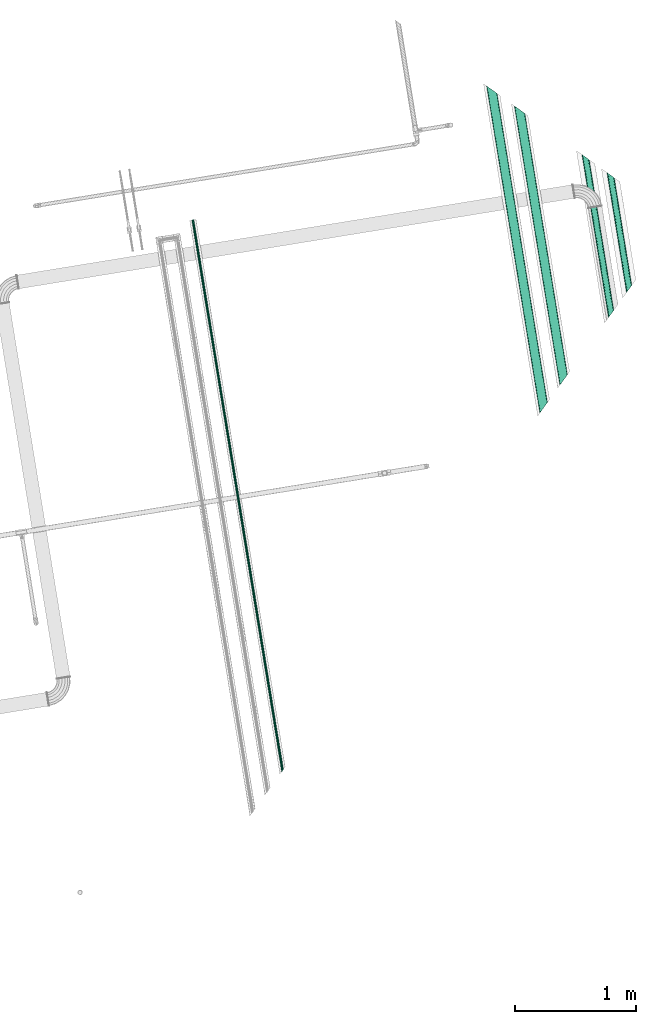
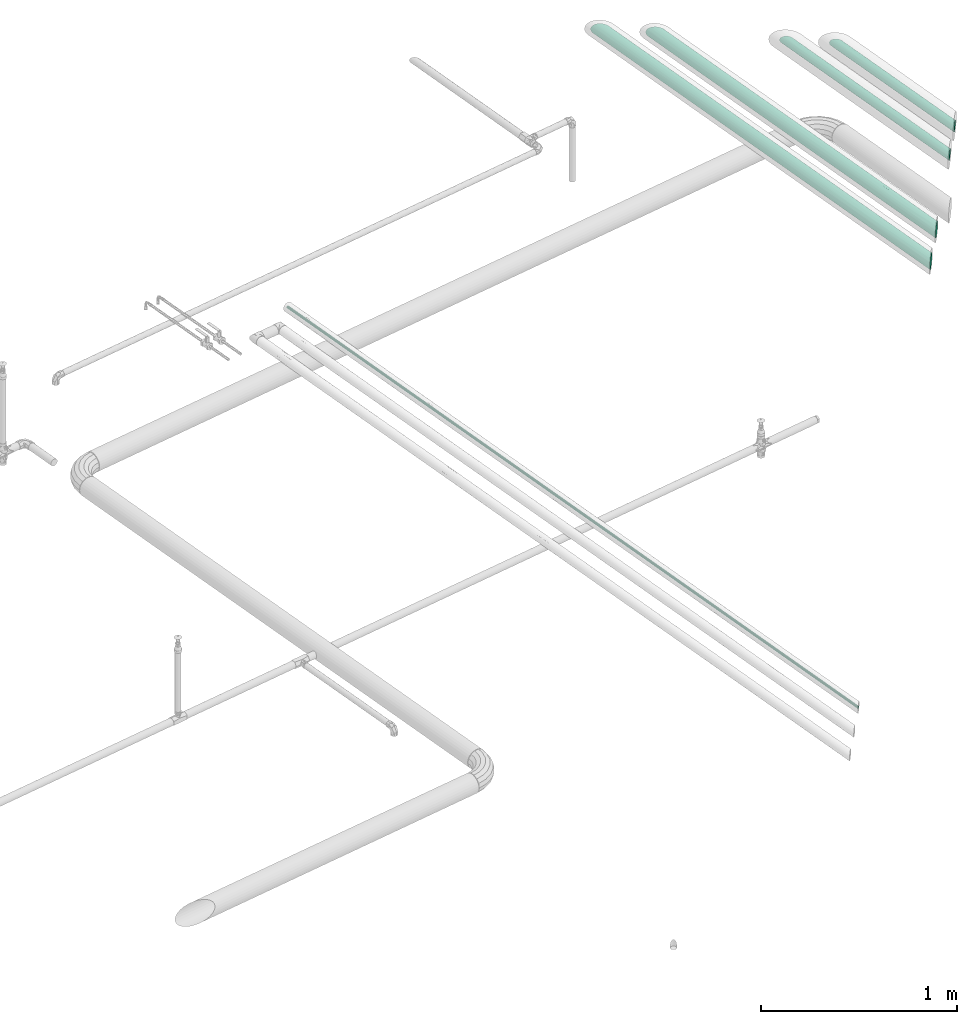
# One storey, part 43 of 46: 5 flow segments.
"""IFC2X3 building model written with IfcOpenShell, lengths in millimetres."""

from ifc_helpers import new_model, entity, si_unit, converted_unit, derived_unit, direction, frame, origin, origin_with_axes, place, context, subcontext, project, spatial, faceted_brep, material, type_object, element, save


model = new_model("IFC2X3")

# Units and contexts
model_context = context("Model", 3, precision=0.01, world=origin(), true_north=direction((6.12323399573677e-17, 1.0)))
plan_context = context("Plan", 3, precision=1e-05, world=origin_with_axes())
body_context = subcontext(model_context, "Body", "Model", "MODEL_VIEW")
ifc_project = project(units=[converted_unit("PLANEANGLEUNIT", "DEGREE", entity("IfcPositiveLengthMeasure", 0.0174532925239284), si_unit("PLANEANGLEUNIT", "RADIAN"), dimensions=[0, 0, 0, 0, 0, 0, 0]), si_unit("AREAUNIT", "SQUARE_METRE"), si_unit("LENGTHUNIT", "METRE", prefix="MILLI"), si_unit("MASSUNIT", "GRAM", prefix="KILO"), si_unit("POWERUNIT", "WATT"), si_unit("PRESSUREUNIT", "PASCAL", prefix="KILO"), si_unit("FORCEUNIT", "NEWTON", prefix="KILO"), si_unit("ELECTRICVOLTAGEUNIT", "VOLT"), si_unit("ELECTRICCURRENTUNIT", "AMPERE"), si_unit("THERMODYNAMICTEMPERATUREUNIT", "DEGREE_CELSIUS"), si_unit("TIMEUNIT", "SECOND"), si_unit("VOLUMEUNIT", "CUBIC_METRE"), derived_unit("LINEARVELOCITYUNIT", [(si_unit("LENGTHUNIT", "METRE"), 1), (si_unit("TIMEUNIT", "SECOND"), -1)]), derived_unit("VOLUMETRICFLOWRATEUNIT", [(si_unit("VOLUMEUNIT", "CUBIC_METRE"), 1), (si_unit("TIMEUNIT", "SECOND"), -1)]), derived_unit("THERMALTRANSMITTANCEUNIT", [(si_unit("POWERUNIT", "WATT"), 1), (si_unit("THERMODYNAMICTEMPERATUREUNIT", "KELVIN"), -1), (si_unit("AREAUNIT", "SQUARE_METRE"), -1)]), derived_unit("SOUNDPRESSUREUNIT", [(si_unit("PRESSUREUNIT", "PASCAL"), 1)])], contexts=[model_context, plan_context])

# Site, building, storey
site_placement = place(None, frame((-3.09682673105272e-06, 1.93776733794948e-05, 0.0), z_axis=(0.0, 0.0, 1.0), x_axis=(-0.160806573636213, 0.986985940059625, 0.0)))
site = spatial("IfcSite", under=ifc_project, at=site_placement, Name="Default", CompositionType="ELEMENT")
building_placement = place(site_placement, frame((0.0, 0.0, 0.0), z_axis=(0.0, 0.0, 1.0), x_axis=(1.0, -2.77555756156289e-17, 0.0)))
building = spatial("IfcBuilding", under=site, at=building_placement, Name="Bygning (endres i Project Information)", CompositionType="ELEMENT")
storey_placement = place(building_placement, frame((0.0, 0.0, 51360.0000000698), z_axis=(0.0, 0.0, 1.0), x_axis=(1.0, -2.77555756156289e-17, 0.0)))
storey = spatial("IfcBuildingStorey", under=building, at=storey_placement, Name="H01-Nivå D+0,36", CompositionType="ELEMENT", Elevation=51360.0000000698)

# Flow segments
ifc_material_1 = material(Name="3320.001")
pipe_segment_type_1 = type_object("IfcPipeSegmentType", Name="Pipe Types:Stålrør sveist og gjenget", PredefinedType="NOTDEFINED", material=ifc_material_1)
flow_segment_1_placement = place(storey_placement, frame((0.0, 0.0, 0.0), z_axis=(0.0, 0.0, 1.0), x_axis=(1.0, -2.77555756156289e-17, 0.0)))
element("IfcFlowSegment", 1, at=flow_segment_1_placement, inside=storey, type_object=pipe_segment_type_1, Name="Pipe Types:Stålrør sveist og gjenget", ObjectType="Pipe Types:Stålrør sveist og gjenget", context=body_context, shape_type="Brep", body=[
    faceted_brep([(1009109.29823757, -356563.343800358, 3653.39268696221), (1009109.87630256, -356562.76573537, 3660.0), (1006771.97433091, -356562.76573537, 3660.0), (1006772.5523959, -356563.343800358, 3653.39268696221), (1009109.29823757, -356563.343800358, 3666.60731303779), (1006772.5523959, -356563.343800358, 3666.60731303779), (1009107.58160682, -356565.060431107, 3673.01386621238), (1006774.26902665, -356565.060431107, 3673.01386621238), (1009104.77856927, -356567.863468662, 3679.02499964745), (1006777.0720642, -356567.863468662, 3679.02499964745), (1009100.97429378, -356571.667744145, 3684.45806809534), (1006780.87633969, -356571.667744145, 3684.45806809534), (1009096.28437136, -356576.35766657, 3689.14799052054), (1006785.56626211, -356576.35766657, 3689.14799052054), (1009090.85130291, -356581.790735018, 3692.95226600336), (1006790.99933056, -356581.790735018, 3692.95226600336), (1009084.84016948, -356587.801868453, 3695.75530355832), (1006797.01046399, -356587.801868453, 3695.75530355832), (1009078.4336163, -356594.208421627, 3697.47193430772), (1006803.41701717, -356594.208421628, 3697.47193430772), (1009071.82630326, -356600.815734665, 3698.0499992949), (1006810.02433021, -356600.815734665, 3698.0499992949), (1009065.21899023, -356607.423047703, 3697.47193430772), (1006816.63164324, -356607.423047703, 3697.47193430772), (1009058.81243705, -356613.829600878, 3695.75530355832), (1006823.03819642, -356613.829600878, 3695.75530355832), (1009052.80130362, -356619.840734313, 3692.95226600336), (1006829.04932985, -356619.840734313, 3692.95226600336), (1009047.36823517, -356625.273802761, 3689.14799052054), (1006834.4823983, -356625.273802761, 3689.14799052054), (1009042.67831274, -356629.963725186, 3684.45806809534), (1006839.17232073, -356629.963725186, 3684.45806809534), (1009038.87403726, -356633.768000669, 3679.02499964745), (1006842.97659621, -356633.768000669, 3679.02499964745), (1009036.0709997, -356636.571038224, 3673.01386621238), (1006845.77963376, -356636.571038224, 3673.01386621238), (1009034.35436896, -356638.287668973, 3666.60731303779), (1006847.49626451, -356638.287668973, 3666.60731303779), (1009033.77630397, -356638.86573396, 3660.0), (1006848.0743295, -356638.86573396, 3660.0), (1009034.35436896, -356638.287668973, 3653.39268696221), (1006847.49626451, -356638.287668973, 3653.39268696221), (1009036.0709997, -356636.571038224, 3646.98613378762), (1006845.77963376, -356636.571038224, 3646.98613378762), (1009038.87403726, -356633.768000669, 3640.97500035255), (1006842.97659621, -356633.768000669, 3640.97500035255), (1009042.67831274, -356629.963725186, 3635.54193190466), (1006839.17232073, -356629.963725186, 3635.54193190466), (1009047.36823517, -356625.273802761, 3630.85200947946), (1006834.4823983, -356625.273802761, 3630.85200947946), (1009052.80130362, -356619.840734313, 3627.04773399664), (1006829.04932985, -356619.840734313, 3627.04773399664), (1009058.81243705, -356613.829600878, 3624.24469644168), (1006823.03819642, -356613.829600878, 3624.24469644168), (1009065.21899023, -356607.423047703, 3622.52806569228), (1006816.63164324, -356607.423047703, 3622.52806569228), (1009071.82630326, -356600.815734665, 3621.9500007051), (1006810.02433021, -356600.815734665, 3621.9500007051), (1009078.4336163, -356594.208421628, 3622.52806569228), (1006803.41701717, -356594.208421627, 3622.52806569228), (1009084.84016948, -356587.801868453, 3624.24469644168), (1006797.01046399, -356587.801868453, 3624.24469644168), (1009090.85130291, -356581.790735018, 3627.04773399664), (1006790.99933056, -356581.790735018, 3627.04773399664), (1009096.28437136, -356576.35766657, 3630.85200947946), (1006785.56626211, -356576.35766657, 3630.85200947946), (1009100.97429378, -356571.667744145, 3635.54193190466), (1006780.87633969, -356571.667744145, 3635.54193190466), (1009104.77856927, -356567.863468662, 3640.97500035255), (1006777.0720642, -356567.863468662, 3640.97500035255), (1009107.58160682, -356565.060431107, 3646.98613378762), (1006774.26902665, -356565.060431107, 3646.98613378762)], [[[0, 1, 2, 3]], [[1, 4, 5, 2]], [[4, 6, 7, 5]], [[6, 8, 9, 7]], [[8, 10, 11, 9]], [[10, 12, 13, 11]], [[12, 14, 15, 13]], [[14, 16, 17, 15]], [[16, 18, 19, 17]], [[18, 20, 21, 19]], [[20, 22, 23, 21]], [[22, 24, 25, 23]], [[24, 26, 27, 25]], [[26, 28, 29, 27]], [[28, 30, 31, 29]], [[30, 32, 33, 31]], [[32, 34, 35, 33]], [[34, 36, 37, 35]], [[36, 38, 39, 37]], [[38, 40, 41, 39]], [[40, 42, 43, 41]], [[42, 44, 45, 43]], [[44, 46, 47, 45]], [[46, 48, 49, 47]], [[48, 50, 51, 49]], [[50, 52, 53, 51]], [[52, 54, 55, 53]], [[54, 56, 57, 55]], [[56, 58, 59, 57]], [[58, 60, 61, 59]], [[60, 62, 63, 61]], [[62, 64, 65, 63]], [[64, 66, 67, 65]], [[66, 68, 69, 67]], [[68, 70, 71, 69]], [[70, 0, 3, 71]], [[70, 68, 66, 64, 62, 60, 58, 56, 54, 52, 50, 48, 46, 44, 42, 40, 38, 36, 34, 32, 30, 28, 26, 24, 22, 20, 18, 16, 14, 12, 10, 8, 6, 4, 1, 0]], [[5, 7, 9, 11, 13, 15, 17, 19, 21, 23, 25, 27, 29, 31, 33, 35, 37, 39, 41, 43, 45, 47, 49, 51, 53, 55, 57, 59, 61, 63, 65, 67, 69, 71, 3, 2]]], orient=[[False], [False], [False], [False], [False], [False], [False], [False], [False], [False], [False], [False], [False], [False], [False], [False], [False], [False], [False], [False], [False], [False], [False], [False], [False], [False], [False], [False], [False], [False], [False], [False], [False], [False], [False], [False], [False], [False]]),
])
flow_segment_2_placement = place(storey_placement, frame((0.0, 0.0, 0.0), z_axis=(0.0, 0.0, 1.0), x_axis=(1.0, -2.77555756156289e-17, 0.0)))
element("IfcFlowSegment", 2, at=flow_segment_2_placement, inside=storey, type_object=pipe_segment_type_1, Name="Pipe Types:Stålrør sveist og gjenget", ObjectType="Pipe Types:Stålrør sveist og gjenget", context=body_context, shape_type="Brep", body=[
    faceted_brep([(1009309.29823757, -356363.343800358, 3653.39268696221), (1009309.87630256, -356362.76573537, 3660.0), (1006571.97433091, -356362.76573537, 3660.0), (1006572.5523959, -356363.343800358, 3653.39268696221), (1009309.29823757, -356363.343800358, 3666.60731303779), (1006572.5523959, -356363.343800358, 3666.60731303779), (1009307.58160682, -356365.060431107, 3673.01386621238), (1006574.26902665, -356365.060431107, 3673.01386621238), (1009304.77856927, -356367.863468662, 3679.02499964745), (1006577.0720642, -356367.863468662, 3679.02499964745), (1009300.97429378, -356371.667744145, 3684.45806809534), (1006580.87633969, -356371.667744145, 3684.45806809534), (1009296.28437136, -356376.35766657, 3689.14799052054), (1006585.56626211, -356376.35766657, 3689.14799052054), (1009290.85130291, -356381.790735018, 3692.95226600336), (1006590.99933056, -356381.790735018, 3692.95226600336), (1009284.84016948, -356387.801868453, 3695.75530355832), (1006597.01046399, -356387.801868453, 3695.75530355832), (1009278.4336163, -356394.208421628, 3697.47193430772), (1006603.41701717, -356394.208421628, 3697.47193430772), (1009271.82630326, -356400.815734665, 3698.0499992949), (1006610.02433021, -356400.815734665, 3698.0499992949), (1009265.21899023, -356407.423047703, 3697.47193430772), (1006616.63164324, -356407.423047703, 3697.47193430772), (1009258.81243705, -356413.829600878, 3695.75530355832), (1006623.03819642, -356413.829600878, 3695.75530355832), (1009252.80130362, -356419.840734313, 3692.95226600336), (1006629.04932985, -356419.840734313, 3692.95226600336), (1009247.36823517, -356425.273802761, 3689.14799052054), (1006634.4823983, -356425.273802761, 3689.14799052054), (1009242.67831274, -356429.963725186, 3684.45806809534), (1006639.17232073, -356429.963725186, 3684.45806809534), (1009238.87403726, -356433.768000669, 3679.02499964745), (1006642.97659621, -356433.768000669, 3679.02499964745), (1009236.0709997, -356436.571038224, 3673.01386621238), (1006645.77963376, -356436.571038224, 3673.01386621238), (1009234.35436896, -356438.287668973, 3666.60731303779), (1006647.49626451, -356438.287668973, 3666.60731303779), (1009233.77630397, -356438.86573396, 3660.0), (1006648.0743295, -356438.86573396, 3660.0), (1009234.35436896, -356438.287668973, 3653.39268696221), (1006647.49626451, -356438.287668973, 3653.39268696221), (1009236.0709997, -356436.571038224, 3646.98613378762), (1006645.77963376, -356436.571038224, 3646.98613378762), (1009238.87403726, -356433.768000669, 3640.97500035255), (1006642.97659621, -356433.768000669, 3640.97500035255), (1009242.67831274, -356429.963725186, 3635.54193190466), (1006639.17232073, -356429.963725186, 3635.54193190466), (1009247.36823517, -356425.273802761, 3630.85200947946), (1006634.4823983, -356425.273802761, 3630.85200947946), (1009252.80130362, -356419.840734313, 3627.04773399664), (1006629.04932985, -356419.840734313, 3627.04773399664), (1009258.81243705, -356413.829600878, 3624.24469644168), (1006623.03819642, -356413.829600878, 3624.24469644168), (1009265.21899023, -356407.423047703, 3622.52806569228), (1006616.63164324, -356407.423047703, 3622.52806569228), (1009271.82630326, -356400.815734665, 3621.9500007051), (1006610.02433021, -356400.815734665, 3621.9500007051), (1009278.4336163, -356394.208421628, 3622.52806569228), (1006603.41701717, -356394.208421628, 3622.52806569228), (1009284.84016948, -356387.801868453, 3624.24469644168), (1006597.01046399, -356387.801868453, 3624.24469644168), (1009290.85130291, -356381.790735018, 3627.04773399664), (1006590.99933056, -356381.790735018, 3627.04773399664), (1009296.28437136, -356376.35766657, 3630.85200947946), (1006585.56626211, -356376.35766657, 3630.85200947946), (1009300.97429378, -356371.667744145, 3635.54193190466), (1006580.87633969, -356371.667744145, 3635.54193190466), (1009304.77856927, -356367.863468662, 3640.97500035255), (1006577.0720642, -356367.863468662, 3640.97500035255), (1009307.58160682, -356365.060431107, 3646.98613378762), (1006574.26902665, -356365.060431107, 3646.98613378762)], [[[0, 1, 2, 3]], [[1, 4, 5, 2]], [[4, 6, 7, 5]], [[6, 8, 9, 7]], [[8, 10, 11, 9]], [[10, 12, 13, 11]], [[12, 14, 15, 13]], [[14, 16, 17, 15]], [[16, 18, 19, 17]], [[18, 20, 21, 19]], [[20, 22, 23, 21]], [[22, 24, 25, 23]], [[24, 26, 27, 25]], [[26, 28, 29, 27]], [[28, 30, 31, 29]], [[30, 32, 33, 31]], [[32, 34, 35, 33]], [[34, 36, 37, 35]], [[36, 38, 39, 37]], [[38, 40, 41, 39]], [[40, 42, 43, 41]], [[42, 44, 45, 43]], [[44, 46, 47, 45]], [[46, 48, 49, 47]], [[48, 50, 51, 49]], [[50, 52, 53, 51]], [[52, 54, 55, 53]], [[54, 56, 57, 55]], [[56, 58, 59, 57]], [[58, 60, 61, 59]], [[60, 62, 63, 61]], [[62, 64, 65, 63]], [[64, 66, 67, 65]], [[66, 68, 69, 67]], [[68, 70, 71, 69]], [[70, 0, 3, 71]], [[70, 68, 66, 64, 62, 60, 58, 56, 54, 52, 50, 48, 46, 44, 42, 40, 38, 36, 34, 32, 30, 28, 26, 24, 22, 20, 18, 16, 14, 12, 10, 8, 6, 4, 1, 0]], [[5, 7, 9, 11, 13, 15, 17, 19, 21, 23, 25, 27, 29, 31, 33, 35, 37, 39, 41, 43, 45, 47, 49, 51, 53, 55, 57, 59, 61, 63, 65, 67, 69, 71, 3, 2]]], orient=[[False], [False], [False], [False], [False], [False], [False], [False], [False], [False], [False], [False], [False], [False], [False], [False], [False], [False], [False], [False], [False], [False], [False], [False], [False], [False], [False], [False], [False], [False], [False], [False], [False], [False], [False], [False], [False], [False]]),
])
ifc_material_2 = material(Name="3200.003 Tur")
pipe_segment_type_2 = type_object("IfcPipeSegmentType", Name="Pipe Types:Pressfittingssystem MM", PredefinedType="NOTDEFINED", material=ifc_material_2)
flow_segment_3_placement = place(storey_placement, frame((0.0, 0.0, 0.0), z_axis=(0.0, 0.0, 1.0), x_axis=(1.0, -2.77555756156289e-17, 0.0)))
element("IfcFlowSegment", 3, at=flow_segment_3_placement, inside=storey, type_object=pipe_segment_type_2, Name="Pipe Types:Pressfittingssystem MM", ObjectType="Pipe Types:Pressfittingssystem MM", context=body_context, shape_type="Brep", body=[
    faceted_brep([(1004007.78873482, -353798.580139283, 3449.99999999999), (1004007.67479297, -353798.466197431, 3451.30236133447), (1008606.59911943, -353798.46619743, 3451.30236133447), (1008606.59911943, -353798.580139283, 3449.99999999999), (1004007.67479297, -353798.46619743, 3448.69763866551), (1008606.59911943, -353798.46619743, 3448.69763866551), (1004007.33642948, -353798.127833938, 3447.43484892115), (1008606.59911943, -353798.127833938, 3447.43484892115), (1004006.78392535, -353797.57532981, 3446.24999999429), (1008606.59911943, -353797.57532981, 3446.24999999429), (1004006.03406814, -353796.825472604, 3445.17909292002), (1008606.59911943, -353796.825472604, 3445.17909292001), (1004005.10964189, -353795.901046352, 3444.25466666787), (1008606.59911943, -353795.901046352, 3444.25466666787), (1004004.03873482, -353794.830139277, 3443.50480946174), (1008606.59911943, -353794.830139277, 3443.50480946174), (1004002.85388589, -353793.64529035, 3442.95230533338), (1008606.59911943, -353793.64529035, 3442.95230533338), (1004001.59109615, -353792.382500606, 3442.61394184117), (1008606.59911943, -353792.382500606, 3442.61394184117), (1004000.28873481, -353791.080139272, 3442.49999998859), (1008606.59911943, -353791.080139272, 3442.49999998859), (1003998.98637348, -353789.777777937, 3442.61394184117), (1008606.59911943, -353789.777777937, 3442.61394184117), (1003997.72358373, -353788.514988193, 3442.95230533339), (1008606.59911943, -353788.514988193, 3442.95230533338), (1003996.53873481, -353787.330139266, 3443.50480946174), (1008606.59911943, -353787.330139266, 3443.50480946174), (1003995.46782773, -353786.259232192, 3444.25466666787), (1008606.59911943, -353786.259232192, 3444.25466666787), (1003994.54340148, -353785.33480594, 3445.17909292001), (1008606.59911943, -353785.33480594, 3445.17909292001), (1003993.79354427, -353784.584948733, 3446.24999999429), (1008606.59911943, -353784.584948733, 3446.24999999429), (1003993.24104015, -353784.032444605, 3447.43484892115), (1008606.59911943, -353784.032444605, 3447.43484892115), (1003992.90267665, -353783.694081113, 3448.69763866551), (1008606.59911943, -353783.694081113, 3448.69763866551), (1003992.7887348, -353783.58013926, 3449.99999999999), (1008606.59911943, -353783.58013926, 3449.99999999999), (1003992.90267665, -353783.694081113, 3451.30236133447), (1008606.59911943, -353783.694081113, 3451.30236133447), (1003993.24104015, -353784.032444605, 3452.56515107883), (1008606.59911943, -353784.032444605, 3452.56515107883), (1003993.79354427, -353784.584948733, 3453.75000000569), (1008606.59911943, -353784.584948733, 3453.75000000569), (1003994.54340148, -353785.33480594, 3454.82090707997), (1008606.59911943, -353785.33480594, 3454.82090707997), (1003995.46782773, -353786.259232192, 3455.74533333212), (1008606.59911943, -353786.259232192, 3455.74533333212), (1003996.53873481, -353787.330139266, 3456.49519053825), (1008606.59911943, -353787.330139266, 3456.49519053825), (1003997.72358373, -353788.514988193, 3457.0476946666), (1008606.59911943, -353788.514988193, 3457.0476946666), (1003998.98637348, -353789.777777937, 3457.38605815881), (1008606.59911943, -353789.777777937, 3457.38605815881), (1004000.28873481, -353791.080139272, 3457.50000001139), (1008606.59911943, -353791.080139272, 3457.50000001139), (1004001.59109615, -353792.382500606, 3457.38605815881), (1008606.59911943, -353792.382500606, 3457.38605815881), (1004002.85388589, -353793.64529035, 3457.0476946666), (1008606.59911943, -353793.64529035, 3457.0476946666), (1004004.03873482, -353794.830139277, 3456.49519053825), (1008606.59911943, -353794.830139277, 3456.49519053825), (1004005.10964189, -353795.901046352, 3455.74533333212), (1008606.59911943, -353795.901046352, 3455.74533333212), (1004006.03406814, -353796.825472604, 3454.82090707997), (1008606.59911943, -353796.825472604, 3454.82090707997), (1004006.78392535, -353797.57532981, 3453.75000000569), (1008606.59911943, -353797.57532981, 3453.75000000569), (1004007.33642948, -353798.127833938, 3452.56515107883), (1008606.59911943, -353798.127833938, 3452.56515107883)], [[[0, 1, 2, 3]], [[4, 0, 3, 5]], [[6, 4, 5, 7]], [[8, 6, 7, 9]], [[10, 8, 9, 11]], [[12, 10, 11, 13]], [[14, 12, 13, 15]], [[16, 14, 15, 17]], [[18, 16, 17, 19]], [[20, 18, 19, 21]], [[22, 20, 21, 23]], [[24, 22, 23, 25]], [[26, 24, 25, 27]], [[28, 26, 27, 29]], [[30, 28, 29, 31]], [[32, 30, 31, 33]], [[34, 32, 33, 35]], [[36, 34, 35, 37]], [[38, 36, 37, 39]], [[40, 38, 39, 41]], [[42, 40, 41, 43]], [[44, 42, 43, 45]], [[46, 44, 45, 47]], [[48, 46, 47, 49]], [[50, 48, 49, 51]], [[52, 50, 51, 53]], [[54, 52, 53, 55]], [[56, 54, 55, 57]], [[58, 56, 57, 59]], [[60, 58, 59, 61]], [[62, 60, 61, 63]], [[64, 62, 63, 65]], [[66, 64, 65, 67]], [[68, 66, 67, 69]], [[70, 68, 69, 71]], [[1, 70, 71, 2]], [[3, 2, 71, 69, 67, 65, 63, 61, 59, 57, 55, 53, 51, 49, 47, 45, 43, 41, 39, 37, 35, 33, 31, 29, 27, 25, 23, 21, 19, 17, 15, 13, 11, 9, 7, 5]], [[4, 6, 8, 10, 12, 14, 16, 18, 20, 22, 24, 26, 28, 30, 32, 34, 36, 38, 40, 42, 44, 46, 48, 50, 52, 54, 56, 58, 60, 62, 64, 66, 68, 70, 1, 0]]], orient=[[False], [False], [False], [False], [False], [False], [False], [False], [False], [False], [False], [False], [False], [False], [False], [False], [False], [False], [False], [False], [False], [False], [False], [False], [False], [False], [False], [False], [False], [False], [False], [False], [False], [False], [False], [False], [False], [False]]),
])
flow_segment_4_placement = place(storey_placement, frame((0.0, 0.0, 0.0), z_axis=(0.0, 0.0, 1.0), x_axis=(1.0, -2.77555756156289e-17, 0.0)))
element("IfcFlowSegment", 4, at=flow_segment_4_placement, inside=storey, type_object=pipe_segment_type_2, Name="Pipe Types:Pressfittingssystem MM", ObjectType="Pipe Types:Pressfittingssystem MM", context=body_context, shape_type="Brep", body=[
    faceted_brep([(1008570.4530732, -357102.188964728, 3664.68850080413), (1008570.04288253, -357102.599155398, 3660.0), (1007311.80775094, -357102.599155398, 3660.0), (1007311.39756027, -357102.188964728, 3664.68850080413), (1008570.4530732, -357102.188964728, 3655.31149919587), (1007311.39756027, -357102.188964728, 3655.31149919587), (1008571.67118177, -357100.970856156, 3650.76545611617), (1007310.1794517, -357100.970856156, 3650.76545611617), (1008573.66019663, -357098.981841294, 3646.49999997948), (1007308.19043684, -357098.981841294, 3646.49999997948), (1008576.35968258, -357096.282355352, 3642.64473451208), (1007305.49095089, -357096.282355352, 3642.64473451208), (1008579.68761708, -357092.954420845, 3639.31680000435), (1007302.16301639, -357092.954420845, 3639.31680000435), (1008583.54288255, -357089.099155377, 3636.61731406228), (1007298.30775092, -357089.099155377, 3636.61731406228), (1008587.80833869, -357084.83369924, 3634.62829920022), (1007294.04229478, -357084.83369924, 3634.62829920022), (1008592.35438177, -357080.287656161, 3633.41019062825), (1007289.4962517, -357080.287656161, 3633.41019062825), (1008597.04288257, -357075.599155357, 3632.99999995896), (1007284.8077509, -357075.599155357, 3632.99999995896), (1008601.73138338, -357070.910654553, 3633.41019062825), (1007280.11925009, -357070.910654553, 3633.41019062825), (1008606.27742646, -357066.364611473, 3634.62829920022), (1007275.57320701, -357066.364611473, 3634.62829920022), (1008610.54288259, -357062.099155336, 3636.61731406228), (1007271.30775088, -357062.099155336, 3636.61731406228), (1008614.39814806, -357058.243889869, 3639.31680000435), (1007267.45248541, -357058.243889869, 3639.31680000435), (1008617.72608257, -357054.915955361, 3642.64473451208), (1007264.1245509, -357054.915955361, 3642.64473451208), (1008620.42556851, -357052.216469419, 3646.49999997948), (1007261.42506496, -357052.216469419, 3646.49999997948), (1008622.41458337, -357050.227454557, 3650.76545611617), (1007259.4360501, -357050.227454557, 3650.76545611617), (1008623.63269194, -357049.009345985, 3655.31149919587), (1007258.21794153, -357049.009345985, 3655.31149919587), (1008624.04288261, -357048.599155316, 3660.0), (1007257.80775086, -357048.599155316, 3660.0), (1008623.63269194, -357049.009345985, 3664.68850080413), (1007258.21794153, -357049.009345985, 3664.68850080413), (1008622.41458337, -357050.227454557, 3669.23454388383), (1007259.4360501, -357050.227454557, 3669.23454388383), (1008620.42556851, -357052.216469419, 3673.50000002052), (1007261.42506496, -357052.216469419, 3673.50000002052), (1008617.72608257, -357054.915955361, 3677.35526548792), (1007264.1245509, -357054.915955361, 3677.35526548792), (1008614.39814806, -357058.243889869, 3680.68319999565), (1007267.45248541, -357058.243889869, 3680.68319999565), (1008610.54288259, -357062.099155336, 3683.38268593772), (1007271.30775088, -357062.099155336, 3683.38268593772), (1008606.27742646, -357066.364611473, 3685.37170079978), (1007275.57320701, -357066.364611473, 3685.37170079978), (1008601.73138338, -357070.910654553, 3686.58980937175), (1007280.11925009, -357070.910654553, 3686.58980937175), (1008597.04288257, -357075.599155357, 3687.00000004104), (1007284.8077509, -357075.599155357, 3687.00000004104), (1008592.35438177, -357080.287656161, 3686.58980937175), (1007289.4962517, -357080.287656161, 3686.58980937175), (1008587.80833869, -357084.83369924, 3685.37170079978), (1007294.04229478, -357084.83369924, 3685.37170079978), (1008583.54288255, -357089.099155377, 3683.38268593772), (1007298.30775092, -357089.099155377, 3683.38268593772), (1008579.68761708, -357092.954420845, 3680.68319999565), (1007302.16301639, -357092.954420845, 3680.68319999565), (1008576.35968258, -357096.282355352, 3677.35526548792), (1007305.49095089, -357096.282355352, 3677.35526548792), (1008573.66019663, -357098.981841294, 3673.50000002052), (1007308.19043684, -357098.981841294, 3673.50000002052), (1008571.67118177, -357100.970856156, 3669.23454388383), (1007310.1794517, -357100.970856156, 3669.23454388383)], [[[0, 1, 2, 3]], [[1, 4, 5, 2]], [[4, 6, 7, 5]], [[6, 8, 9, 7]], [[8, 10, 11, 9]], [[10, 12, 13, 11]], [[12, 14, 15, 13]], [[14, 16, 17, 15]], [[16, 18, 19, 17]], [[18, 20, 21, 19]], [[20, 22, 23, 21]], [[22, 24, 25, 23]], [[24, 26, 27, 25]], [[26, 28, 29, 27]], [[28, 30, 31, 29]], [[30, 32, 33, 31]], [[32, 34, 35, 33]], [[34, 36, 37, 35]], [[36, 38, 39, 37]], [[38, 40, 41, 39]], [[40, 42, 43, 41]], [[42, 44, 45, 43]], [[44, 46, 47, 45]], [[46, 48, 49, 47]], [[48, 50, 51, 49]], [[50, 52, 53, 51]], [[52, 54, 55, 53]], [[54, 56, 57, 55]], [[56, 58, 59, 57]], [[58, 60, 61, 59]], [[60, 62, 63, 61]], [[62, 64, 65, 63]], [[64, 66, 67, 65]], [[66, 68, 69, 67]], [[68, 70, 71, 69]], [[70, 0, 3, 71]], [[70, 68, 66, 64, 62, 60, 58, 56, 54, 52, 50, 48, 46, 44, 42, 40, 38, 36, 34, 32, 30, 28, 26, 24, 22, 20, 18, 16, 14, 12, 10, 8, 6, 4, 1, 0]], [[5, 7, 9, 11, 13, 15, 17, 19, 21, 23, 25, 27, 29, 31, 33, 35, 37, 39, 41, 43, 45, 47, 49, 51, 53, 55, 57, 59, 61, 63, 65, 67, 69, 71, 3, 2]]], orient=[[False], [False], [False], [False], [False], [False], [False], [False], [False], [False], [False], [False], [False], [False], [False], [False], [False], [False], [False], [False], [False], [False], [False], [False], [False], [False], [False], [False], [False], [False], [False], [False], [False], [False], [False], [False], [False], [False]]),
])
flow_segment_5_placement = place(storey_placement, frame((0.0, 0.0, 0.0), z_axis=(0.0, 0.0, 1.0), x_axis=(1.0, -2.77555756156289e-17, 0.0)))
element("IfcFlowSegment", 5, at=flow_segment_5_placement, inside=storey, type_object=pipe_segment_type_2, Name="Pipe Types:Pressfittingssystem MM", ObjectType="Pipe Types:Pressfittingssystem MM", context=body_context, shape_type="Brep", body=[
    faceted_brep([(1008390.42103884, -357282.220999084, 3664.68850080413), (1008390.01084817, -357282.631189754, 3660.0), (1007491.83978529, -357282.631189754, 3660.0), (1007491.42959463, -357282.220999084, 3664.68850080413), (1008390.42103884, -357282.220999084, 3655.31149919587), (1007491.42959463, -357282.220999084, 3655.31149919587), (1008391.63914742, -357281.002890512, 3650.76545611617), (1007490.21148605, -357281.002890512, 3650.76545611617), (1008393.62816228, -357279.01387565, 3646.49999997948), (1007488.22247119, -357279.01387565, 3646.49999997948), (1008396.32764822, -357276.314389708, 3642.64473451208), (1007485.52298525, -357276.314389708, 3642.64473451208), (1008399.65558273, -357272.986455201, 3639.31680000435), (1007482.19505074, -357272.986455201, 3639.31680000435), (1008403.5108482, -357269.131189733, 3636.61731406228), (1007478.33978527, -357269.131189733, 3636.61731406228), (1008407.77630433, -357264.865733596, 3634.62829920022), (1007474.07432914, -357264.865733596, 3634.62829920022), (1008412.32234741, -357260.319690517, 3633.41019062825), (1007469.52828606, -357260.319690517, 3633.41019062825), (1008417.01084822, -357255.631189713, 3632.99999995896), (1007464.83978525, -357255.631189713, 3632.99999995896), (1008421.69934902, -357250.942688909, 3633.41019062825), (1007460.15128445, -357250.942688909, 3633.41019062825), (1008426.2453921, -357246.396645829, 3634.62829920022), (1007455.60524137, -357246.396645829, 3634.62829920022), (1008430.51084824, -357242.131189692, 3636.61731406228), (1007451.33978523, -357242.131189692, 3636.61731406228), (1008434.3661137, -357238.275924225, 3639.31680000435), (1007447.48451977, -357238.275924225, 3639.31680000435), (1008437.69404821, -357234.947989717, 3642.64473451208), (1007444.15658526, -357234.947989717, 3642.64473451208), (1008440.39353415, -357232.248503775, 3646.49999997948), (1007441.45709932, -357232.248503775, 3646.49999997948), (1008442.38254902, -357230.259488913, 3650.76545611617), (1007439.46808445, -357230.259488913, 3650.76545611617), (1008443.60065759, -357229.041380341, 3655.31149919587), (1007438.24997588, -357229.041380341, 3655.31149919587), (1008444.01084826, -357228.631189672, 3660.0), (1007437.83978521, -357228.631189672, 3660.0), (1008443.60065759, -357229.041380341, 3664.68850080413), (1007438.24997588, -357229.041380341, 3664.68850080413), (1008442.38254902, -357230.259488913, 3669.23454388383), (1007439.46808445, -357230.259488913, 3669.23454388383), (1008440.39353415, -357232.248503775, 3673.50000002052), (1007441.45709932, -357232.248503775, 3673.50000002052), (1008437.69404821, -357234.947989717, 3677.35526548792), (1007444.15658526, -357234.947989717, 3677.35526548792), (1008434.3661137, -357238.275924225, 3680.68319999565), (1007447.48451977, -357238.275924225, 3680.68319999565), (1008430.51084824, -357242.131189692, 3683.38268593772), (1007451.33978523, -357242.131189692, 3683.38268593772), (1008426.2453921, -357246.396645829, 3685.37170079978), (1007455.60524137, -357246.396645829, 3685.37170079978), (1008421.69934902, -357250.942688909, 3686.58980937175), (1007460.15128445, -357250.942688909, 3686.58980937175), (1008417.01084822, -357255.631189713, 3687.00000004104), (1007464.83978525, -357255.631189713, 3687.00000004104), (1008412.32234741, -357260.319690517, 3686.58980937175), (1007469.52828606, -357260.319690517, 3686.58980937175), (1008407.77630433, -357264.865733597, 3685.37170079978), (1007474.07432914, -357264.865733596, 3685.37170079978), (1008403.5108482, -357269.131189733, 3683.38268593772), (1007478.33978527, -357269.131189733, 3683.38268593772), (1008399.65558273, -357272.986455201, 3680.68319999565), (1007482.19505074, -357272.986455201, 3680.68319999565), (1008396.32764822, -357276.314389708, 3677.35526548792), (1007485.52298525, -357276.314389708, 3677.35526548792), (1008393.62816228, -357279.01387565, 3673.50000002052), (1007488.22247119, -357279.01387565, 3673.50000002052), (1008391.63914742, -357281.002890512, 3669.23454388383), (1007490.21148605, -357281.002890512, 3669.23454388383)], [[[0, 1, 2, 3]], [[1, 4, 5, 2]], [[4, 6, 7, 5]], [[6, 8, 9, 7]], [[8, 10, 11, 9]], [[10, 12, 13, 11]], [[12, 14, 15, 13]], [[14, 16, 17, 15]], [[16, 18, 19, 17]], [[18, 20, 21, 19]], [[20, 22, 23, 21]], [[22, 24, 25, 23]], [[24, 26, 27, 25]], [[26, 28, 29, 27]], [[28, 30, 31, 29]], [[30, 32, 33, 31]], [[32, 34, 35, 33]], [[34, 36, 37, 35]], [[36, 38, 39, 37]], [[38, 40, 41, 39]], [[40, 42, 43, 41]], [[42, 44, 45, 43]], [[44, 46, 47, 45]], [[46, 48, 49, 47]], [[48, 50, 51, 49]], [[50, 52, 53, 51]], [[52, 54, 55, 53]], [[54, 56, 57, 55]], [[56, 58, 59, 57]], [[58, 60, 61, 59]], [[60, 62, 63, 61]], [[62, 64, 65, 63]], [[64, 66, 67, 65]], [[66, 68, 69, 67]], [[68, 70, 71, 69]], [[70, 0, 3, 71]], [[70, 68, 66, 64, 62, 60, 58, 56, 54, 52, 50, 48, 46, 44, 42, 40, 38, 36, 34, 32, 30, 28, 26, 24, 22, 20, 18, 16, 14, 12, 10, 8, 6, 4, 1, 0]], [[5, 7, 9, 11, 13, 15, 17, 19, 21, 23, 25, 27, 29, 31, 33, 35, 37, 39, 41, 43, 45, 47, 49, 51, 53, 55, 57, 59, 61, 63, 65, 67, 69, 71, 3, 2]]], orient=[[False], [False], [False], [False], [False], [False], [False], [False], [False], [False], [False], [False], [False], [False], [False], [False], [False], [False], [False], [False], [False], [False], [False], [False], [False], [False], [False], [False], [False], [False], [False], [False], [False], [False], [False], [False], [False], [False]]),
])

save(model, "model.ifc")
